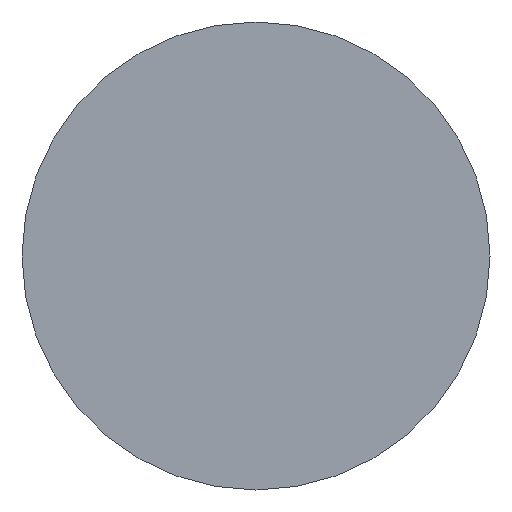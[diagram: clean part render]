
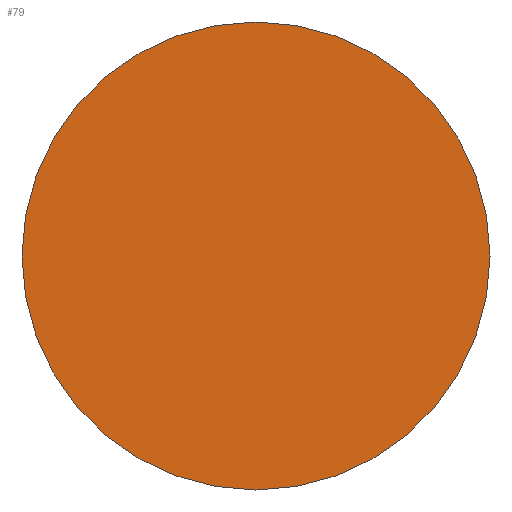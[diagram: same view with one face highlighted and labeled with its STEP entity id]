
A CAD part, left-side view. The second image highlights one B-rep face of the part: STEP entity #79.
In plain terms, the highlighted planar face has unit normal (-1, 0, 0).
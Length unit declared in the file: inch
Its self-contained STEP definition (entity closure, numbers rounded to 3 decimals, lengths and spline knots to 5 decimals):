
#75 = ORIENTED_EDGE ( 'NONE', *, *, #95, .T. ) ;
#77 = EDGE_LOOP ( 'NONE', ( #75, #81 ) ) ;
#78 = EDGE_CURVE ( 'NONE', #126, #93, #114, .T. ) ;
#79 = ADVANCED_FACE ( 'NONE', ( #155 ), #128, .F. ) ;
#81 = ORIENTED_EDGE ( 'NONE', *, *, #78, .T. ) ;
#93 = VERTEX_POINT ( 'NONE', #160 ) ;
#95 = EDGE_CURVE ( 'NONE', #93, #126, #194, .T. ) ;
#106 = CARTESIAN_POINT ( 'NONE',  ( 0., 0.34375, 0. ) ) ;
#111 = DIRECTION ( 'NONE',  ( -1., 0., 0. ) ) ;
#112 = CARTESIAN_POINT ( 'NONE',  ( 0., 0., 0. ) ) ;
#113 = AXIS2_PLACEMENT_3D ( 'NONE', #112, #111, #129 ) ;
#114 = CIRCLE ( 'NONE', #113, 0.34375 ) ;
#126 = VERTEX_POINT ( 'NONE', #106 ) ;
#127 = CARTESIAN_POINT ( 'NONE',  ( 0., 0., 0. ) ) ;
#128 = PLANE ( 'NONE',  #163 ) ;
#129 = DIRECTION ( 'NONE',  ( 0., -1., 0. ) ) ;
#130 = DIRECTION ( 'NONE',  ( 0., -1., 0. ) ) ;
#131 = DIRECTION ( 'NONE',  ( -1., 0., 0. ) ) ;
#132 = CARTESIAN_POINT ( 'NONE',  ( 0., 0., 0. ) ) ;
#133 = AXIS2_PLACEMENT_3D ( 'NONE', #132, #131, #130 ) ;
#155 = FACE_OUTER_BOUND ( 'NONE', #77, .T. ) ;
#160 = CARTESIAN_POINT ( 'NONE',  ( 0., -0.34375, 0. ) ) ;
#162 = DIRECTION ( 'NONE',  ( 1., 0., 0. ) ) ;
#163 = AXIS2_PLACEMENT_3D ( 'NONE', #127, #162, #228 ) ;
#194 = CIRCLE ( 'NONE', #133, 0.34375 ) ;
#228 = DIRECTION ( 'NONE',  ( 0., 1., 0. ) ) ;
